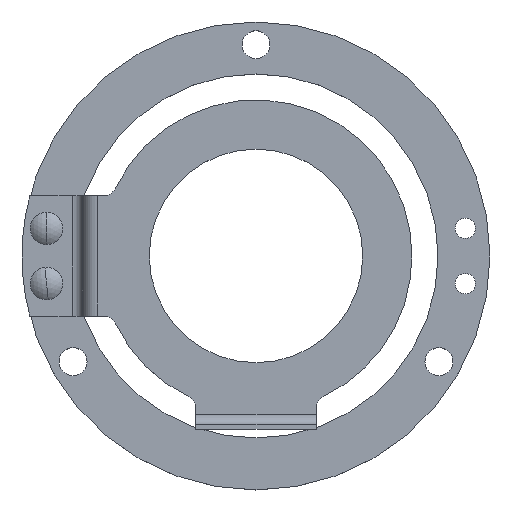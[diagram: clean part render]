
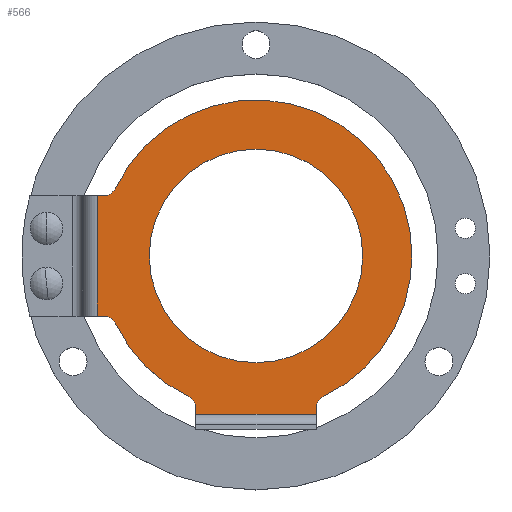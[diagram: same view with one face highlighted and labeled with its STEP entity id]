
A CAD part, top view. The second image highlights one B-rep face of the part: STEP entity #566.
In plain terms, the highlighted planar face has unit normal (0, 0, 1).
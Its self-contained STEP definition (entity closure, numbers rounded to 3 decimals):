
#324 = EDGE_CURVE ( 'NONE', #325, #481, #1851, .T. ) ;
#325 = VERTEX_POINT ( 'NONE', #1847 ) ;
#355 = EDGE_CURVE ( 'NONE', #356, #611, #2040, .T. ) ;
#356 = VERTEX_POINT ( 'NONE', #2147 ) ;
#357 = ORIENTED_EDGE ( 'NONE', *, *, #358, .T. ) ;
#358 = EDGE_CURVE ( 'NONE', #356, #359, #2198, .T. ) ;
#359 = VERTEX_POINT ( 'NONE', #2193 ) ;
#449 = EDGE_CURVE ( 'NONE', #553, #555, #2276, .T. ) ;
#450 = ORIENTED_EDGE ( 'NONE', *, *, #451, .F. ) ;
#451 = EDGE_CURVE ( 'NONE', #452, #555, #2272, .T. ) ;
#452 = VERTEX_POINT ( 'NONE', #2268 ) ;
#454 = ORIENTED_EDGE ( 'NONE', *, *, #455, .T. ) ;
#455 = EDGE_CURVE ( 'NONE', #452, #650, #2266, .T. ) ;
#456 = ORIENTED_EDGE ( 'NONE', *, *, #509, .F. ) ;
#457 = ORIENTED_EDGE ( 'NONE', *, *, #458, .F. ) ;
#458 = EDGE_CURVE ( 'NONE', #557, #648, #2261, .T. ) ;
#466 = EDGE_LOOP ( 'NONE', ( #475, #479, #482, #609, #612, #357, #551, #554, #450, #454, #456, #457, #558 ) ) ;
#475 = ORIENTED_EDGE ( 'NONE', *, *, #476, .F. ) ;
#476 = EDGE_CURVE ( 'NONE', #477, #484, #2341, .T. ) ;
#477 = VERTEX_POINT ( 'NONE', #2337 ) ;
#479 = ORIENTED_EDGE ( 'NONE', *, *, #480, .T. ) ;
#480 = EDGE_CURVE ( 'NONE', #477, #481, #2336, .T. ) ;
#481 = VERTEX_POINT ( 'NONE', #2332 ) ;
#482 = ORIENTED_EDGE ( 'NONE', *, *, #324, .F. ) ;
#484 = VERTEX_POINT ( 'NONE', #2327 ) ;
#509 = EDGE_CURVE ( 'NONE', #648, #650, #2399, .T. ) ;
#551 = ORIENTED_EDGE ( 'NONE', *, *, #552, .F. ) ;
#552 = EDGE_CURVE ( 'NONE', #553, #359, #2626, .T. ) ;
#553 = VERTEX_POINT ( 'NONE', #2622 ) ;
#554 = ORIENTED_EDGE ( 'NONE', *, *, #449, .T. ) ;
#555 = VERTEX_POINT ( 'NONE', #2621 ) ;
#557 = VERTEX_POINT ( 'NONE', #2615 ) ;
#558 = ORIENTED_EDGE ( 'NONE', *, *, #559, .T. ) ;
#559 = EDGE_CURVE ( 'NONE', #557, #484, #2614, .T. ) ;
#560 = EDGE_LOOP ( 'NONE', ( #561, #562 ) ) ;
#561 = ORIENTED_EDGE ( 'NONE', *, *, #622, .T. ) ;
#562 = ORIENTED_EDGE ( 'NONE', *, *, #563, .T. ) ;
#563 = EDGE_CURVE ( 'NONE', #620, #623, #2609, .T. ) ;
#566 = ADVANCED_FACE ( 'NONE', ( #2598, #2597 ), #2582, .F. ) ;
#609 = ORIENTED_EDGE ( 'NONE', *, *, #610, .T. ) ;
#610 = EDGE_CURVE ( 'NONE', #325, #611, #2752, .T. ) ;
#611 = VERTEX_POINT ( 'NONE', #2747 ) ;
#612 = ORIENTED_EDGE ( 'NONE', *, *, #355, .F. ) ;
#620 = VERTEX_POINT ( 'NONE', #2869 ) ;
#622 = EDGE_CURVE ( 'NONE', #623, #620, #2868, .T. ) ;
#623 = VERTEX_POINT ( 'NONE', #2863 ) ;
#648 = VERTEX_POINT ( 'NONE', #2798 ) ;
#650 = VERTEX_POINT ( 'NONE', #2797 ) ;
#1847 = CARTESIAN_POINT ( 'NONE',  ( -23.44, -9.25, 9.7 ) ) ;
#1848 = DIRECTION ( 'NONE',  ( -1., 0., 0. ) ) ;
#1849 = VECTOR ( 'NONE', #1848, 1000. ) ;
#1850 = CARTESIAN_POINT ( 'NONE',  ( -22.146, -9.25, 9.7 ) ) ;
#1851 = LINE ( 'NONE', #1850, #1849 ) ;
#2038 = CARTESIAN_POINT ( 'NONE',  ( 0., 0., 9.7 ) ) ;
#2039 = AXIS2_PLACEMENT_3D ( 'NONE', #2038, #2149, #2148 ) ;
#2040 = CIRCLE ( 'NONE', #2039, 24. ) ;
#2147 = CARTESIAN_POINT ( 'NONE',  ( -10.385, -21.637, 9.7 ) ) ;
#2148 = DIRECTION ( 'NONE',  ( -1., 0., 0. ) ) ;
#2149 = DIRECTION ( 'NONE',  ( 0., 0., -1. ) ) ;
#2193 = CARTESIAN_POINT ( 'NONE',  ( -9.25, -23.44, 9.7 ) ) ;
#2194 = DIRECTION ( 'NONE',  ( -1., 0., 0. ) ) ;
#2195 = DIRECTION ( 'NONE',  ( 0., 0., -1. ) ) ;
#2196 = CARTESIAN_POINT ( 'NONE',  ( -11.25, -23.44, 9.7 ) ) ;
#2197 = AXIS2_PLACEMENT_3D ( 'NONE', #2196, #2195, #2194 ) ;
#2198 = CIRCLE ( 'NONE', #2197, 2. ) ;
#2257 = DIRECTION ( 'NONE',  ( -1., 0., 0. ) ) ;
#2258 = DIRECTION ( 'NONE',  ( 0., 0., -1. ) ) ;
#2259 = CARTESIAN_POINT ( 'NONE',  ( 0., 0., 9.7 ) ) ;
#2260 = AXIS2_PLACEMENT_3D ( 'NONE', #2259, #2258, #2257 ) ;
#2261 = CIRCLE ( 'NONE', #2260, 24. ) ;
#2262 = DIRECTION ( 'NONE',  ( -1., 0., 0. ) ) ;
#2263 = DIRECTION ( 'NONE',  ( 0., 0., -1. ) ) ;
#2264 = CARTESIAN_POINT ( 'NONE',  ( 11.25, -23.44, 9.7 ) ) ;
#2265 = AXIS2_PLACEMENT_3D ( 'NONE', #2264, #2263, #2262 ) ;
#2266 = CIRCLE ( 'NONE', #2265, 2. ) ;
#2268 = CARTESIAN_POINT ( 'NONE',  ( 9.25, -23.44, 9.7 ) ) ;
#2269 = DIRECTION ( 'NONE',  ( 0., -1., 0. ) ) ;
#2270 = VECTOR ( 'NONE', #2269, 1000. ) ;
#2271 = CARTESIAN_POINT ( 'NONE',  ( 9.25, -22.146, 9.7 ) ) ;
#2272 = LINE ( 'NONE', #2271, #2270 ) ;
#2273 = DIRECTION ( 'NONE',  ( 1., 0., 0. ) ) ;
#2274 = VECTOR ( 'NONE', #2273, 1000. ) ;
#2275 = CARTESIAN_POINT ( 'NONE',  ( 0., -24.4, 9.7 ) ) ;
#2276 = LINE ( 'NONE', #2275, #2274 ) ;
#2327 = CARTESIAN_POINT ( 'NONE',  ( -23.44, 9.25, 9.7 ) ) ;
#2332 = CARTESIAN_POINT ( 'NONE',  ( -24.4, -9.25, 9.7 ) ) ;
#2333 = DIRECTION ( 'NONE',  ( 0., -1., 0. ) ) ;
#2334 = VECTOR ( 'NONE', #2333, 1000. ) ;
#2335 = CARTESIAN_POINT ( 'NONE',  ( -24.4, -9.25, 9.7 ) ) ;
#2336 = LINE ( 'NONE', #2335, #2334 ) ;
#2337 = CARTESIAN_POINT ( 'NONE',  ( -24.4, 9.25, 9.7 ) ) ;
#2338 = DIRECTION ( 'NONE',  ( 1., 0., 0. ) ) ;
#2339 = VECTOR ( 'NONE', #2338, 1000. ) ;
#2340 = CARTESIAN_POINT ( 'NONE',  ( -22.146, 9.25, 9.7 ) ) ;
#2341 = LINE ( 'NONE', #2340, #2339 ) ;
#2395 = DIRECTION ( 'NONE',  ( -1., 0., 0. ) ) ;
#2396 = DIRECTION ( 'NONE',  ( 0., 0., -1. ) ) ;
#2397 = CARTESIAN_POINT ( 'NONE',  ( 0., 0., 9.7 ) ) ;
#2398 = AXIS2_PLACEMENT_3D ( 'NONE', #2397, #2396, #2395 ) ;
#2399 = CIRCLE ( 'NONE', #2398, 24. ) ;
#2576 = DIRECTION ( 'NONE',  ( -1., 0., 0. ) ) ;
#2577 = DIRECTION ( 'NONE',  ( 0., 0., -1. ) ) ;
#2578 = CARTESIAN_POINT ( 'NONE',  ( 0., 0., 9.7 ) ) ;
#2579 = AXIS2_PLACEMENT_3D ( 'NONE', #2578, #2577, #2576 ) ;
#2582 = PLANE ( 'NONE',  #2579 ) ;
#2597 = FACE_BOUND ( 'NONE', #560, .T. ) ;
#2598 = FACE_OUTER_BOUND ( 'NONE', #466, .T. ) ;
#2605 = DIRECTION ( 'NONE',  ( -1., 0., 0. ) ) ;
#2606 = DIRECTION ( 'NONE',  ( 0., 0., -1. ) ) ;
#2607 = CARTESIAN_POINT ( 'NONE',  ( 0., 0., 9.7 ) ) ;
#2608 = AXIS2_PLACEMENT_3D ( 'NONE', #2607, #2606, #2605 ) ;
#2609 = CIRCLE ( 'NONE', #2608, 16.425 ) ;
#2610 = DIRECTION ( 'NONE',  ( -1., 0., 0. ) ) ;
#2611 = DIRECTION ( 'NONE',  ( 0., 0., -1. ) ) ;
#2612 = CARTESIAN_POINT ( 'NONE',  ( -23.44, 11.25, 9.7 ) ) ;
#2613 = AXIS2_PLACEMENT_3D ( 'NONE', #2612, #2611, #2610 ) ;
#2614 = CIRCLE ( 'NONE', #2613, 2. ) ;
#2615 = CARTESIAN_POINT ( 'NONE',  ( -21.637, 10.385, 9.7 ) ) ;
#2621 = CARTESIAN_POINT ( 'NONE',  ( 9.25, -24.4, 9.7 ) ) ;
#2622 = CARTESIAN_POINT ( 'NONE',  ( -9.25, -24.4, 9.7 ) ) ;
#2623 = DIRECTION ( 'NONE',  ( 0., 1., 0. ) ) ;
#2624 = VECTOR ( 'NONE', #2623, 1000. ) ;
#2625 = CARTESIAN_POINT ( 'NONE',  ( -9.25, -22.146, 9.7 ) ) ;
#2626 = LINE ( 'NONE', #2625, #2624 ) ;
#2747 = CARTESIAN_POINT ( 'NONE',  ( -21.637, -10.385, 9.7 ) ) ;
#2748 = DIRECTION ( 'NONE',  ( -1., 0., 0. ) ) ;
#2749 = DIRECTION ( 'NONE',  ( 0., 0., -1. ) ) ;
#2750 = CARTESIAN_POINT ( 'NONE',  ( -23.44, -11.25, 9.7 ) ) ;
#2751 = AXIS2_PLACEMENT_3D ( 'NONE', #2750, #2749, #2748 ) ;
#2752 = CIRCLE ( 'NONE', #2751, 2. ) ;
#2797 = CARTESIAN_POINT ( 'NONE',  ( 10.385, -21.637, 9.7 ) ) ;
#2798 = CARTESIAN_POINT ( 'NONE',  ( 24., 0., 9.7 ) ) ;
#2863 = CARTESIAN_POINT ( 'NONE',  ( 16.425, 0., 9.7 ) ) ;
#2864 = DIRECTION ( 'NONE',  ( -1., 0., 0. ) ) ;
#2865 = DIRECTION ( 'NONE',  ( 0., 0., -1. ) ) ;
#2866 = CARTESIAN_POINT ( 'NONE',  ( 0., 0., 9.7 ) ) ;
#2867 = AXIS2_PLACEMENT_3D ( 'NONE', #2866, #2865, #2864 ) ;
#2868 = CIRCLE ( 'NONE', #2867, 16.425 ) ;
#2869 = CARTESIAN_POINT ( 'NONE',  ( -16.425, 0., 9.7 ) ) ;
